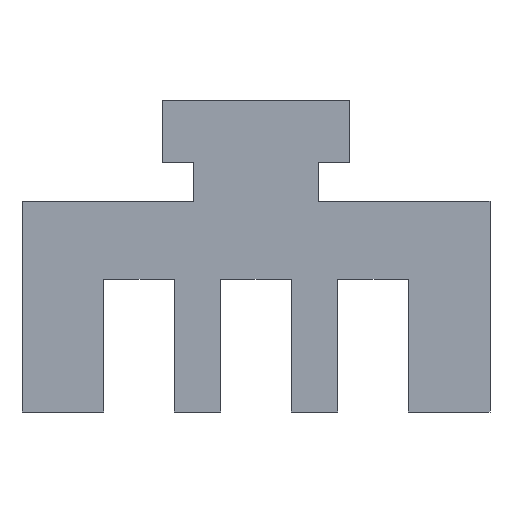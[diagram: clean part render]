
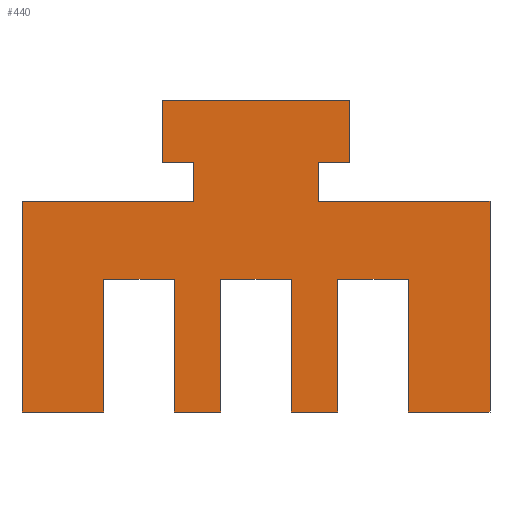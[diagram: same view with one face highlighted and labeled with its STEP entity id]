
A CAD part, front view. The second image highlights one B-rep face of the part: STEP entity #440.
In plain terms, the highlighted planar face has unit normal (0, -1, 0).
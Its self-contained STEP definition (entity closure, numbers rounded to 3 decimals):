
#1=DIRECTION('',(0.,0.,1.));
#2=VECTOR('',#1,8.5);
#3=CARTESIAN_POINT('',(2.25,0.,-13.5));
#4=LINE('',#3,#2);
#5=DIRECTION('',(-1.,0.,0.));
#6=VECTOR('',#5,4.5);
#7=CARTESIAN_POINT('',(2.25,0.,-5.));
#8=LINE('',#7,#6);
#9=DIRECTION('',(0.,0.,-1.));
#10=VECTOR('',#9,8.5);
#11=CARTESIAN_POINT('',(-2.25,0.,-5.));
#12=LINE('',#11,#10);
#13=DIRECTION('',(-1.,0.,0.));
#14=VECTOR('',#13,3.);
#15=CARTESIAN_POINT('',(-2.25,0.,-13.5));
#16=LINE('',#15,#14);
#17=DIRECTION('',(0.,0.,1.));
#18=VECTOR('',#17,8.5);
#19=CARTESIAN_POINT('',(-5.25,0.,-13.5));
#20=LINE('',#19,#18);
#21=DIRECTION('',(-1.,0.,0.));
#22=VECTOR('',#21,4.5);
#23=CARTESIAN_POINT('',(-5.25,0.,-5.));
#24=LINE('',#23,#22);
#25=DIRECTION('',(0.,0.,-1.));
#26=VECTOR('',#25,8.5);
#27=CARTESIAN_POINT('',(-9.75,0.,-5.));
#28=LINE('',#27,#26);
#29=DIRECTION('',(-1.,0.,0.));
#30=VECTOR('',#29,5.25);
#31=CARTESIAN_POINT('',(-9.75,0.,-13.5));
#32=LINE('',#31,#30);
#33=DIRECTION('',(0.,0.,1.));
#34=VECTOR('',#33,13.5);
#35=CARTESIAN_POINT('',(-15.,0.,-13.5));
#36=LINE('',#35,#34);
#37=DIRECTION('',(1.,0.,0.));
#38=VECTOR('',#37,11.);
#39=CARTESIAN_POINT('',(-15.,0.,0.));
#40=LINE('',#39,#38);
#41=DIRECTION('',(0.,0.,1.));
#42=VECTOR('',#41,2.5);
#43=CARTESIAN_POINT('',(-4.,0.,0.));
#44=LINE('',#43,#42);
#45=DIRECTION('',(-1.,0.,0.));
#46=VECTOR('',#45,2.);
#47=CARTESIAN_POINT('',(-4.,0.,2.5));
#48=LINE('',#47,#46);
#49=DIRECTION('',(0.,0.,1.));
#50=VECTOR('',#49,4.);
#51=CARTESIAN_POINT('',(-6.,0.,2.5));
#52=LINE('',#51,#50);
#53=DIRECTION('',(1.,0.,0.));
#54=VECTOR('',#53,12.);
#55=CARTESIAN_POINT('',(-6.,0.,6.5));
#56=LINE('',#55,#54);
#57=DIRECTION('',(0.,0.,-1.));
#58=VECTOR('',#57,4.);
#59=CARTESIAN_POINT('',(6.,0.,6.5));
#60=LINE('',#59,#58);
#61=DIRECTION('',(-1.,0.,0.));
#62=VECTOR('',#61,2.);
#63=CARTESIAN_POINT('',(6.,0.,2.5));
#64=LINE('',#63,#62);
#65=DIRECTION('',(0.,0.,-1.));
#66=VECTOR('',#65,2.5);
#67=CARTESIAN_POINT('',(4.,0.,2.5));
#68=LINE('',#67,#66);
#69=DIRECTION('',(1.,0.,0.));
#70=VECTOR('',#69,11.);
#71=CARTESIAN_POINT('',(4.,0.,0.));
#72=LINE('',#71,#70);
#73=DIRECTION('',(0.,0.,-1.));
#74=VECTOR('',#73,13.5);
#75=CARTESIAN_POINT('',(15.,0.,0.));
#76=LINE('',#75,#74);
#77=DIRECTION('',(-1.,0.,0.));
#78=VECTOR('',#77,5.25);
#79=CARTESIAN_POINT('',(15.,0.,-13.5));
#80=LINE('',#79,#78);
#81=DIRECTION('',(0.,0.,1.));
#82=VECTOR('',#81,8.5);
#83=CARTESIAN_POINT('',(9.75,0.,-13.5));
#84=LINE('',#83,#82);
#85=DIRECTION('',(-1.,0.,0.));
#86=VECTOR('',#85,4.5);
#87=CARTESIAN_POINT('',(9.75,0.,-5.));
#88=LINE('',#87,#86);
#89=DIRECTION('',(0.,0.,-1.));
#90=VECTOR('',#89,8.5);
#91=CARTESIAN_POINT('',(5.25,0.,-5.));
#92=LINE('',#91,#90);
#93=DIRECTION('',(-1.,0.,0.));
#94=VECTOR('',#93,3.);
#95=CARTESIAN_POINT('',(5.25,0.,-13.5));
#96=LINE('',#95,#94);
#289=CARTESIAN_POINT('',(2.25,0.,-13.5));
#290=CARTESIAN_POINT('',(2.25,0.,-5.));
#291=VERTEX_POINT('',#289);
#292=VERTEX_POINT('',#290);
#293=CARTESIAN_POINT('',(-2.25,0.,-5.));
#294=VERTEX_POINT('',#293);
#295=CARTESIAN_POINT('',(-2.25,0.,-13.5));
#296=VERTEX_POINT('',#295);
#297=CARTESIAN_POINT('',(-5.25,0.,-13.5));
#298=VERTEX_POINT('',#297);
#299=CARTESIAN_POINT('',(-5.25,0.,-5.));
#300=VERTEX_POINT('',#299);
#301=CARTESIAN_POINT('',(-9.75,0.,-5.));
#302=VERTEX_POINT('',#301);
#303=CARTESIAN_POINT('',(-9.75,0.,-13.5));
#304=VERTEX_POINT('',#303);
#305=CARTESIAN_POINT('',(-15.,0.,-13.5));
#306=VERTEX_POINT('',#305);
#307=CARTESIAN_POINT('',(-15.,0.,0.));
#308=VERTEX_POINT('',#307);
#309=CARTESIAN_POINT('',(-4.,0.,0.));
#310=VERTEX_POINT('',#309);
#311=CARTESIAN_POINT('',(-4.,0.,2.5));
#312=VERTEX_POINT('',#311);
#313=CARTESIAN_POINT('',(-6.,0.,2.5));
#314=VERTEX_POINT('',#313);
#315=CARTESIAN_POINT('',(-6.,0.,6.5));
#316=VERTEX_POINT('',#315);
#317=CARTESIAN_POINT('',(6.,0.,6.5));
#318=VERTEX_POINT('',#317);
#319=CARTESIAN_POINT('',(6.,0.,2.5));
#320=VERTEX_POINT('',#319);
#321=CARTESIAN_POINT('',(4.,0.,2.5));
#322=VERTEX_POINT('',#321);
#323=CARTESIAN_POINT('',(4.,0.,0.));
#324=VERTEX_POINT('',#323);
#325=CARTESIAN_POINT('',(15.,0.,0.));
#326=VERTEX_POINT('',#325);
#327=CARTESIAN_POINT('',(15.,0.,-13.5));
#328=VERTEX_POINT('',#327);
#329=CARTESIAN_POINT('',(9.75,0.,-13.5));
#330=VERTEX_POINT('',#329);
#331=CARTESIAN_POINT('',(9.75,0.,-5.));
#332=VERTEX_POINT('',#331);
#333=CARTESIAN_POINT('',(5.25,0.,-5.));
#334=VERTEX_POINT('',#333);
#335=CARTESIAN_POINT('',(5.25,0.,-13.5));
#336=VERTEX_POINT('',#335);
#385=CARTESIAN_POINT('',(0.,0.,0.));
#386=DIRECTION('',(0.,1.,0.));
#387=DIRECTION('',(1.,0.,0.));
#388=AXIS2_PLACEMENT_3D('',#385,#386,#387);
#389=PLANE('',#388);
#391=ORIENTED_EDGE('',*,*,#390,.T.);
#393=ORIENTED_EDGE('',*,*,#392,.T.);
#395=ORIENTED_EDGE('',*,*,#394,.T.);
#397=ORIENTED_EDGE('',*,*,#396,.T.);
#399=ORIENTED_EDGE('',*,*,#398,.T.);
#401=ORIENTED_EDGE('',*,*,#400,.T.);
#403=ORIENTED_EDGE('',*,*,#402,.T.);
#405=ORIENTED_EDGE('',*,*,#404,.T.);
#407=ORIENTED_EDGE('',*,*,#406,.T.);
#409=ORIENTED_EDGE('',*,*,#408,.T.);
#411=ORIENTED_EDGE('',*,*,#410,.T.);
#413=ORIENTED_EDGE('',*,*,#412,.T.);
#415=ORIENTED_EDGE('',*,*,#414,.T.);
#417=ORIENTED_EDGE('',*,*,#416,.T.);
#419=ORIENTED_EDGE('',*,*,#418,.T.);
#421=ORIENTED_EDGE('',*,*,#420,.T.);
#423=ORIENTED_EDGE('',*,*,#422,.T.);
#425=ORIENTED_EDGE('',*,*,#424,.T.);
#427=ORIENTED_EDGE('',*,*,#426,.T.);
#429=ORIENTED_EDGE('',*,*,#428,.T.);
#431=ORIENTED_EDGE('',*,*,#430,.T.);
#433=ORIENTED_EDGE('',*,*,#432,.T.);
#435=ORIENTED_EDGE('',*,*,#434,.T.);
#437=ORIENTED_EDGE('',*,*,#436,.T.);
#438=EDGE_LOOP('',(#391,#393,#395,#397,#399,#401,#403,#405,#407,#409,#411,#413,
#415,#417,#419,#421,#423,#425,#427,#429,#431,#433,#435,#437));
#439=FACE_OUTER_BOUND('',#438,.F.);
#440=ADVANCED_FACE('',(#439),#389,.F.);
#390=EDGE_CURVE('',#291,#292,#4,.T.);
#392=EDGE_CURVE('',#292,#294,#8,.T.);
#394=EDGE_CURVE('',#294,#296,#12,.T.);
#396=EDGE_CURVE('',#296,#298,#16,.T.);
#398=EDGE_CURVE('',#298,#300,#20,.T.);
#400=EDGE_CURVE('',#300,#302,#24,.T.);
#402=EDGE_CURVE('',#302,#304,#28,.T.);
#404=EDGE_CURVE('',#304,#306,#32,.T.);
#406=EDGE_CURVE('',#306,#308,#36,.T.);
#408=EDGE_CURVE('',#308,#310,#40,.T.);
#410=EDGE_CURVE('',#310,#312,#44,.T.);
#412=EDGE_CURVE('',#312,#314,#48,.T.);
#414=EDGE_CURVE('',#314,#316,#52,.T.);
#416=EDGE_CURVE('',#316,#318,#56,.T.);
#418=EDGE_CURVE('',#318,#320,#60,.T.);
#420=EDGE_CURVE('',#320,#322,#64,.T.);
#422=EDGE_CURVE('',#322,#324,#68,.T.);
#424=EDGE_CURVE('',#324,#326,#72,.T.);
#426=EDGE_CURVE('',#326,#328,#76,.T.);
#428=EDGE_CURVE('',#328,#330,#80,.T.);
#430=EDGE_CURVE('',#330,#332,#84,.T.);
#432=EDGE_CURVE('',#332,#334,#88,.T.);
#434=EDGE_CURVE('',#334,#336,#92,.T.);
#436=EDGE_CURVE('',#336,#291,#96,.T.);
